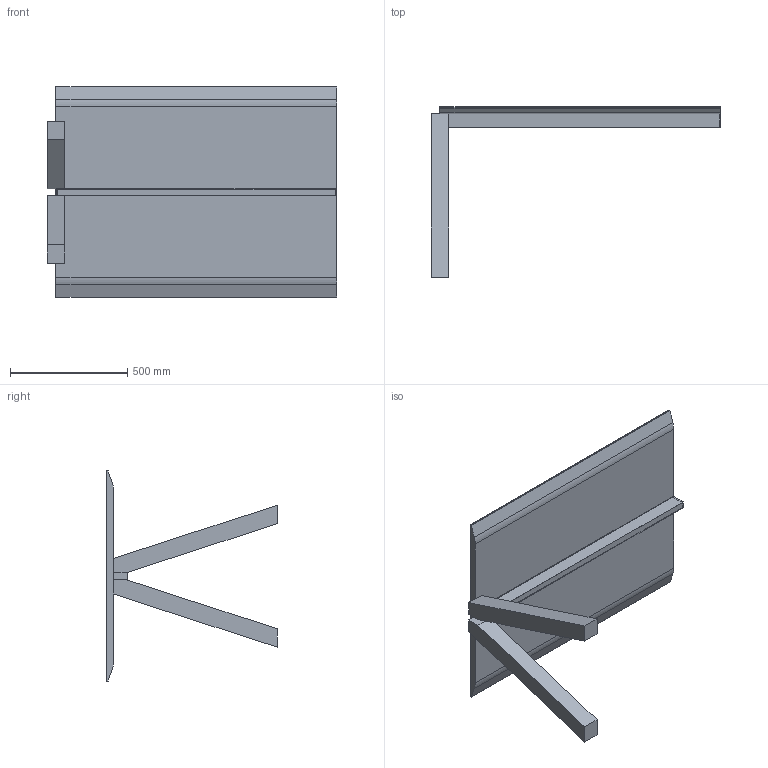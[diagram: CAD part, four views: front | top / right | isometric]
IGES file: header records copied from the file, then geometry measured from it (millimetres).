
Start section: SolidWorks IGES file using NURBS representation for surfaces
Global section: file name: W:\01-VICCARBE\PRODUCTOS\45-TRESTLE\04-MODELADOS (PLANOS)\WEB\table\3D\IGES\viccarbe_trestle_table_central_component.IGS; native system: SolidWorks 2013; preprocessor: SolidWorks 2013; author: Usuario; date: 140918.102311; units: millimetre
Bounding box: 1237.68 x 729 x 900 mm (x, y, z)
Surface area: 3107367.3 mm2 (no closed solid volume)
Topology: 0 solids, 0 shells, 40 faces, 180 edges, 180 vertices
Faces by surface type: bspline 40
